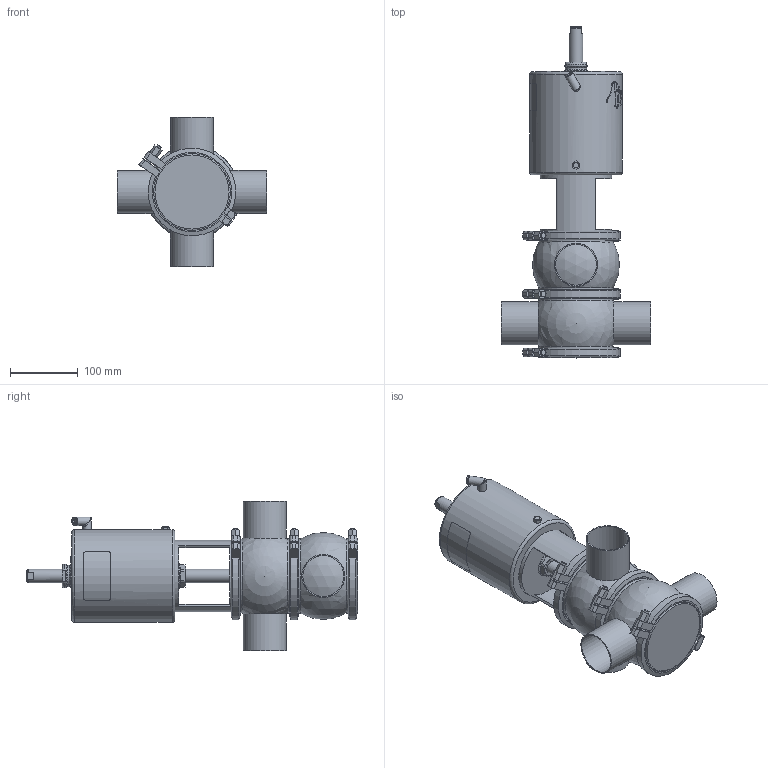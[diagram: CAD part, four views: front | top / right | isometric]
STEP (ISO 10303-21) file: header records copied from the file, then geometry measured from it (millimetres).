
FILE_DESCRIPTION (( 'STEP AP214' ), '1' );
FILE_NAME ('INNOVA M C W OD 2½ T3 AS NC_10.241.16.0007.STEP', '2024-08-07T12:42:20', ( '' ), ( '' ), 'SwSTEP 2.0', 'SolidWorks 2023', '' );
FILE_SCHEMA (( 'AUTOMOTIVE_DESIGN' ));
Length unit declared in the file: millimetre
Products named in the file (6): INNOVA M C W OD 2½ T3 AS NC_10.241.16.0007; 10.241.15.0001_DIN 065; 10.240.15.0007_OD 2½"; 10.240.15.0014_T3 AS P180; 10.240.15.0010_DN 065; 10.240.15.0001_DN 065
Assembly tree (8 placements, depth 2):
  INNOVA M C W OD 2½ T3 AS NC_10.241.16.0007
    10.240.15.0007_OD 2½"  x2
    10.240.15.0010_DN 065
    10.240.15.0014_T3 AS P180
    10.240.15.0001_DN 065  x3
    10.241.15.0001_DIN 065
Bounding box: 220 x 488.5 x 220 mm (x, y, z)
Volume: 4637977.4 mm3; surface area: 461235.6 mm2
Topology: 9 solids, 9 shells, 467 faces, 1227 edges, 801 vertices
Faces by surface type: plane 227, cylinder 114, bspline 80, cone 36, sphere 6, torus 4
Full cylindrical faces by diameter (mm): 6.15 x1, 8 x7, 8.5 x1, 10.5 x1, 12.5 x3, 16 x1, 20 x2, 31 x1, 34.5 x2, 36.5 x1, 60.2 x4, 63.5 x4, 105 x1, 109 x5, 121 x6, 136 x1
Entity records: 20460 total; most frequent: CARTESIAN_POINT 11283, ORIENTED_EDGE 1600, DIRECTION 1221, EDGE_CURVE 800, VERTEX_POINT 551, AXIS2_PLACEMENT_3D 466, EDGE_LOOP 407, FACE_OUTER_BOUND 366
